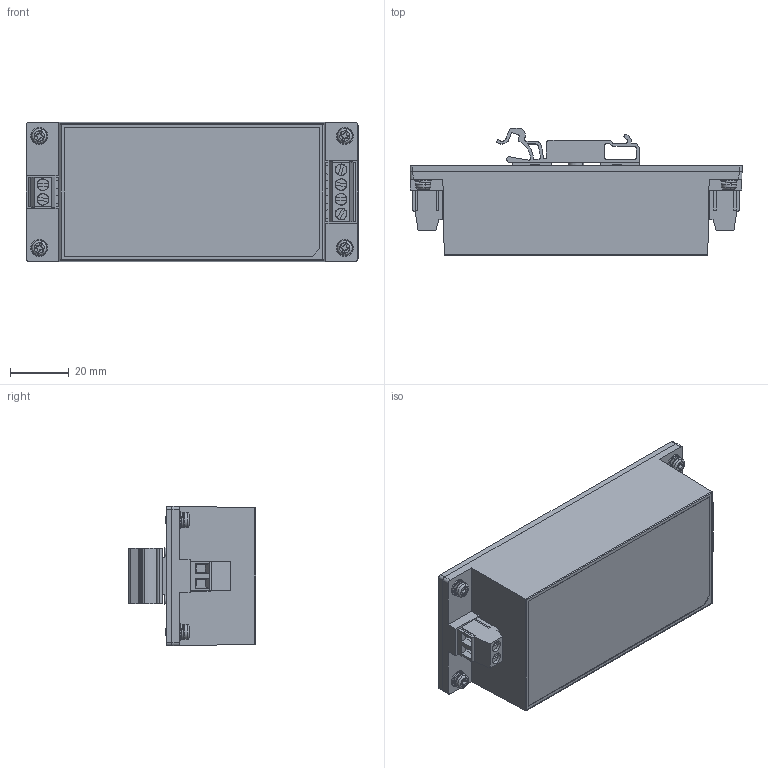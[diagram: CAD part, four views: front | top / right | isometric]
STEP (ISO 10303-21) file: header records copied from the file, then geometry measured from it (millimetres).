
FILE_DESCRIPTION (( 'STEP AP214' ), '1' );
FILE_NAME ('ECE80-SD.STEP', '2019-11-26T14:07:13', ( '' ), ( '' ), 'SwSTEP 2.0', 'SolidWorks 2018', '' );
FILE_SCHEMA (( 'AUTOMOTIVE_DESIGN' ));
Length unit declared in the file: inch
Products named in the file (13): DIN CLIP PLASTIC; M3.5x8mm; EK508V-4; ECE60 SERIES-S base insert; ECE60-S PCB; M3x6mm; ECE80-S BASE; ECE80-S; ECE80-S M3.5x3.5mm; ECE80-S (DIN RAIL) PLATE; ECE80-S CASE; ECE80-SD; EK508V-2
Assembly tree (15 placements, depth 3):
  ECE80-SD
    M3.5x8mm
    M3x6mm  x4
    DIN CLIP PLASTIC
    ECE80-S M3.5x3.5mm
    ECE80-S (DIN RAIL) PLATE
    ECE80-S
      EK508V-2
      EK508V-4
      ECE80-S CASE
      ECE60 SERIES-S base insert
      ECE60-S PCB
      ECE80-S BASE
Bounding box: 113 x 43.25 x 47.5 mm (x, y, z)
Volume: 43944.8 mm3; surface area: 64758.2 mm2
Topology: 14 solids, 14 shells, 1261 faces, 3445 edges, 2277 vertices
Faces by surface type: plane 782, cylinder 341, bspline 93, cone 45
Entity records: 56112 total; most frequent: CARTESIAN_POINT 14396, ORIENTED_EDGE 5912, DIRECTION 5194, EDGE_CURVE 2956, VECTOR 2180, LINE 2180, VERTEX_POINT 1944, AXIS2_PLACEMENT_3D 1507
